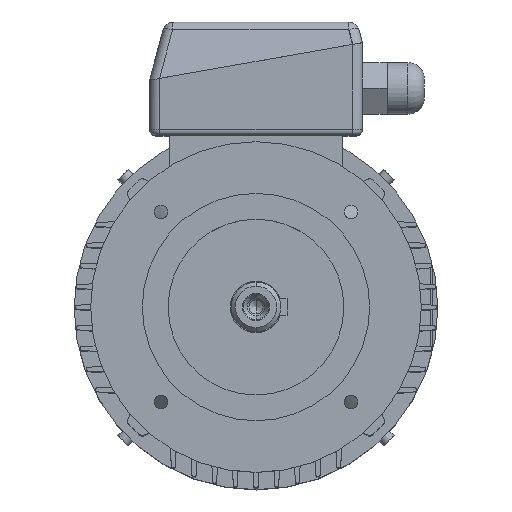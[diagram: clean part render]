
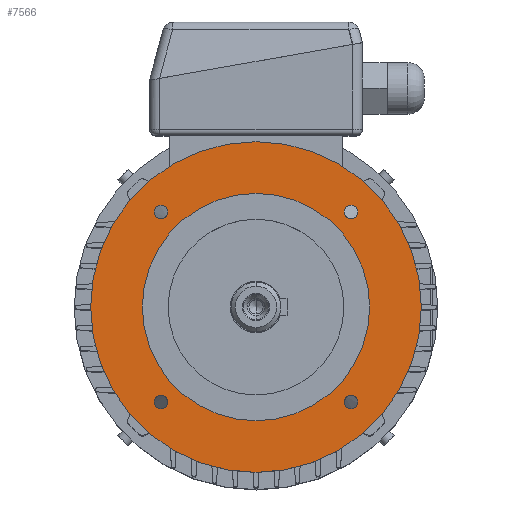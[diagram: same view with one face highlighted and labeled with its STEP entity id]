
A CAD part, top view. The second image highlights one B-rep face of the part: STEP entity #7566.
In plain terms, the highlighted planar face has unit normal (0, 0, 1).
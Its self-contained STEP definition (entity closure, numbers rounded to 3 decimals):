
#53 = CARTESIAN_POINT ( 'NONE',  ( 0., -55., 40. ) ) ;
#415 = CARTESIAN_POINT ( 'NONE',  ( 0., 80., 40. ) ) ;
#512 = CARTESIAN_POINT ( 'NONE',  ( -42.712, 45.962, 40. ) ) ;
#658 = CARTESIAN_POINT ( 'NONE',  ( -49.212, 45.962, 40. ) ) ;
#1220 = EDGE_CURVE ( 'NONE', #6678, #9256, #9291, .T. ) ;
#1296 = CARTESIAN_POINT ( 'NONE',  ( 49.212, -45.962, 40. ) ) ;
#1623 = CIRCLE ( 'NONE', #1624, 3.25 ) ;
#1624 = AXIS2_PLACEMENT_3D ( 'NONE', #1625, #1631, #1632 ) ;
#1625 = CARTESIAN_POINT ( 'NONE',  ( -45.962, -45.962, 40. ) ) ;
#1631 = DIRECTION ( 'NONE',  ( 0., 0., 1. ) ) ;
#1632 = DIRECTION ( 'NONE',  ( 1., 0., 0. ) ) ;
#1769 = CARTESIAN_POINT ( 'NONE',  ( 42.712, -45.962, 40. ) ) ;
#2342 = CARTESIAN_POINT ( 'NONE',  ( 0., -80., 40. ) ) ;
#2501 = CIRCLE ( 'NONE', #2502, 3.25 ) ;
#2502 = AXIS2_PLACEMENT_3D ( 'NONE', #2503, #2504, #2505 ) ;
#2503 = CARTESIAN_POINT ( 'NONE',  ( 45.962, -45.962, 40. ) ) ;
#2504 = DIRECTION ( 'NONE',  ( 0., 0., 1. ) ) ;
#2505 = DIRECTION ( 'NONE',  ( 1., 0., 0. ) ) ;
#2918 = CIRCLE ( 'NONE', #2919, 3.25 ) ;
#2919 = AXIS2_PLACEMENT_3D ( 'NONE', #2920, #2924, #2925 ) ;
#2920 = CARTESIAN_POINT ( 'NONE',  ( -45.962, 45.962, 40. ) ) ;
#2924 = DIRECTION ( 'NONE',  ( 0., 0., 1. ) ) ;
#2925 = DIRECTION ( 'NONE',  ( 1., 0., 0. ) ) ;
#3130 = CIRCLE ( 'NONE', #3131, 80. ) ;
#3131 = AXIS2_PLACEMENT_3D ( 'NONE', #3132, #3133, #3134 ) ;
#3132 = CARTESIAN_POINT ( 'NONE',  ( 0., 0., 40. ) ) ;
#3133 = DIRECTION ( 'NONE',  ( 0., 0., -1. ) ) ;
#3134 = DIRECTION ( 'NONE',  ( 0., 1., 0. ) ) ;
#3589 = FACE_BOUND ( 'NONE', #7519, .T. ) ;
#3590 = FACE_BOUND ( 'NONE', #7104, .T. ) ;
#3591 = FACE_BOUND ( 'NONE', #9154, .T. ) ;
#3592 = FACE_BOUND ( 'NONE', #8452, .T. ) ;
#3593 = FACE_BOUND ( 'NONE', #8046, .T. ) ;
#3594 = FACE_OUTER_BOUND ( 'NONE', #6525, .T. ) ;
#3595 = PLANE ( 'NONE',  #3596 ) ;
#3596 = AXIS2_PLACEMENT_3D ( 'NONE', #3597, #3598, #3599 ) ;
#3597 = CARTESIAN_POINT ( 'NONE',  ( 0., 80., 40. ) ) ;
#3598 = DIRECTION ( 'NONE',  ( 0., 0., 1. ) ) ;
#3599 = DIRECTION ( 'NONE',  ( 0., -1., 0. ) ) ;
#3775 = CARTESIAN_POINT ( 'NONE',  ( -49.212, -45.962, 40. ) ) ;
#3787 = CIRCLE ( 'NONE', #3788, 55. ) ;
#3788 = AXIS2_PLACEMENT_3D ( 'NONE', #3789, #3790, #3791 ) ;
#3789 = CARTESIAN_POINT ( 'NONE',  ( 0., 0., 40. ) ) ;
#3790 = DIRECTION ( 'NONE',  ( 0., 0., -1. ) ) ;
#3791 = DIRECTION ( 'NONE',  ( 0., 1., 0. ) ) ;
#4936 = CIRCLE ( 'NONE', #4937, 3.25 ) ;
#4937 = AXIS2_PLACEMENT_3D ( 'NONE', #4938, #4939, #4940 ) ;
#4938 = CARTESIAN_POINT ( 'NONE',  ( 45.962, 45.962, 40. ) ) ;
#4939 = DIRECTION ( 'NONE',  ( 0., 0., 1. ) ) ;
#4940 = DIRECTION ( 'NONE',  ( 1., 0., 0. ) ) ;
#5548 = EDGE_CURVE ( 'NONE', #7075, #9171, #11066, .T. ) ;
#5600 = CIRCLE ( 'NONE', #5601, 3.25 ) ;
#5601 = AXIS2_PLACEMENT_3D ( 'NONE', #5602, #5603, #5604 ) ;
#5602 = CARTESIAN_POINT ( 'NONE',  ( 45.962, 45.962, 40. ) ) ;
#5603 = DIRECTION ( 'NONE',  ( 0., 0., 1. ) ) ;
#5604 = DIRECTION ( 'NONE',  ( 1., 0., 0. ) ) ;
#5636 = CARTESIAN_POINT ( 'NONE',  ( 42.712, 45.962, 40. ) ) ;
#5752 = CARTESIAN_POINT ( 'NONE',  ( -42.712, -45.962, 40. ) ) ;
#5813 = CIRCLE ( 'NONE', #5814, 3.25 ) ;
#5814 = AXIS2_PLACEMENT_3D ( 'NONE', #5815, #5816, #5817 ) ;
#5815 = CARTESIAN_POINT ( 'NONE',  ( -45.962, -45.962, 40. ) ) ;
#5816 = DIRECTION ( 'NONE',  ( 0., 0., 1. ) ) ;
#5817 = DIRECTION ( 'NONE',  ( 1., 0., 0. ) ) ;
#5818 = CARTESIAN_POINT ( 'NONE',  ( 49.212, 45.962, 40. ) ) ;
#5878 = CIRCLE ( 'NONE', #5879, 3.25 ) ;
#5879 = AXIS2_PLACEMENT_3D ( 'NONE', #5880, #5881, #5882 ) ;
#5880 = CARTESIAN_POINT ( 'NONE',  ( 45.962, -45.962, 40. ) ) ;
#5881 = DIRECTION ( 'NONE',  ( 0., 0., 1. ) ) ;
#5882 = DIRECTION ( 'NONE',  ( 1., 0., 0. ) ) ;
#5945 = ORIENTED_EDGE ( 'NONE', *, *, #5548, .F. ) ;
#6044 = VERTEX_POINT ( 'NONE', #11289 ) ;
#6283 = EDGE_CURVE ( 'NONE', #6044, #6521, #11430, .T. ) ;
#6376 = ORIENTED_EDGE ( 'NONE', *, *, #7357, .F. ) ;
#6521 = VERTEX_POINT ( 'NONE', #53 ) ;
#6525 = EDGE_LOOP ( 'NONE', ( #6376, #5945 ) ) ;
#6586 = ORIENTED_EDGE ( 'NONE', *, *, #7659, .T. ) ;
#6678 = VERTEX_POINT ( 'NONE', #658 ) ;
#6892 = EDGE_CURVE ( 'NONE', #8564, #7654, #1623, .T. ) ;
#6976 = ORIENTED_EDGE ( 'NONE', *, *, #6892, .F. ) ;
#7075 = VERTEX_POINT ( 'NONE', #2342 ) ;
#7104 = EDGE_LOOP ( 'NONE', ( #6976, #9388 ) ) ;
#7164 = ORIENTED_EDGE ( 'NONE', *, *, #1220, .F. ) ;
#7268 = EDGE_CURVE ( 'NONE', #9256, #6678, #2918, .T. ) ;
#7354 = ORIENTED_EDGE ( 'NONE', *, *, #7268, .F. ) ;
#7357 = EDGE_CURVE ( 'NONE', #9171, #7075, #3130, .T. ) ;
#7519 = EDGE_LOOP ( 'NONE', ( #7354, #7164 ) ) ;
#7566 = ADVANCED_FACE ( 'NONE', ( #3589, #3590, #3591, #3592, #3593, #3594 ), #3595, .T. ) ;
#7654 = VERTEX_POINT ( 'NONE', #3775 ) ;
#7659 = EDGE_CURVE ( 'NONE', #6521, #6044, #3787, .T. ) ;
#7914 = ORIENTED_EDGE ( 'NONE', *, *, #6283, .T. ) ;
#8046 = EDGE_LOOP ( 'NONE', ( #7914, #6586 ) ) ;
#8090 = ORIENTED_EDGE ( 'NONE', *, *, #8491, .F. ) ;
#8210 = EDGE_CURVE ( 'NONE', #8604, #8507, #4936, .T. ) ;
#8306 = ORIENTED_EDGE ( 'NONE', *, *, #8210, .F. ) ;
#8452 = EDGE_LOOP ( 'NONE', ( #8306, #8090 ) ) ;
#8491 = EDGE_CURVE ( 'NONE', #8507, #8604, #5600, .T. ) ;
#8504 = ORIENTED_EDGE ( 'NONE', *, *, #11472, .F. ) ;
#8507 = VERTEX_POINT ( 'NONE', #5636 ) ;
#8564 = VERTEX_POINT ( 'NONE', #5752 ) ;
#8603 = EDGE_CURVE ( 'NONE', #7654, #8564, #5813, .T. ) ;
#8604 = VERTEX_POINT ( 'NONE', #5818 ) ;
#8631 = EDGE_CURVE ( 'NONE', #10036, #10627, #5878, .T. ) ;
#8727 = ORIENTED_EDGE ( 'NONE', *, *, #8631, .F. ) ;
#9154 = EDGE_LOOP ( 'NONE', ( #8727, #8504 ) ) ;
#9171 = VERTEX_POINT ( 'NONE', #415 ) ;
#9256 = VERTEX_POINT ( 'NONE', #512 ) ;
#9291 = CIRCLE ( 'NONE', #9292, 3.25 ) ;
#9292 = AXIS2_PLACEMENT_3D ( 'NONE', #9293, #9294, #9295 ) ;
#9293 = CARTESIAN_POINT ( 'NONE',  ( -45.962, 45.962, 40. ) ) ;
#9294 = DIRECTION ( 'NONE',  ( 0., 0., 1. ) ) ;
#9295 = DIRECTION ( 'NONE',  ( 1., 0., 0. ) ) ;
#9388 = ORIENTED_EDGE ( 'NONE', *, *, #8603, .F. ) ;
#10036 = VERTEX_POINT ( 'NONE', #1296 ) ;
#10627 = VERTEX_POINT ( 'NONE', #1769 ) ;
#11066 = CIRCLE ( 'NONE', #11067, 80. ) ;
#11067 = AXIS2_PLACEMENT_3D ( 'NONE', #11068, #11069, #11070 ) ;
#11068 = CARTESIAN_POINT ( 'NONE',  ( 0., 0., 40. ) ) ;
#11069 = DIRECTION ( 'NONE',  ( 0., 0., -1. ) ) ;
#11070 = DIRECTION ( 'NONE',  ( 0., 1., 0. ) ) ;
#11289 = CARTESIAN_POINT ( 'NONE',  ( 0., 55., 40. ) ) ;
#11430 = CIRCLE ( 'NONE', #11431, 55. ) ;
#11431 = AXIS2_PLACEMENT_3D ( 'NONE', #11432, #11433, #11434 ) ;
#11432 = CARTESIAN_POINT ( 'NONE',  ( 0., 0., 40. ) ) ;
#11433 = DIRECTION ( 'NONE',  ( 0., 0., -1. ) ) ;
#11434 = DIRECTION ( 'NONE',  ( 0., 1., 0. ) ) ;
#11472 = EDGE_CURVE ( 'NONE', #10627, #10036, #2501, .T. ) ;
